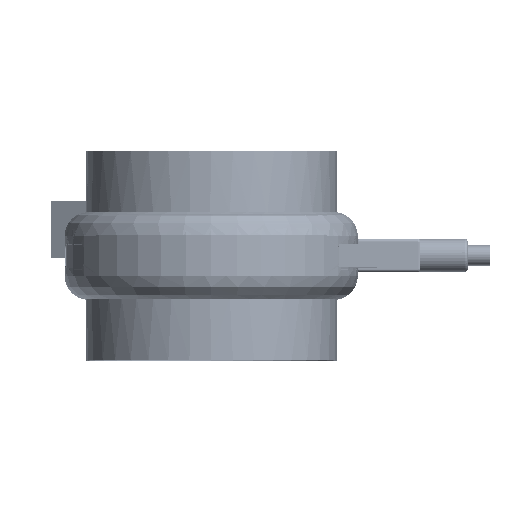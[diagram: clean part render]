
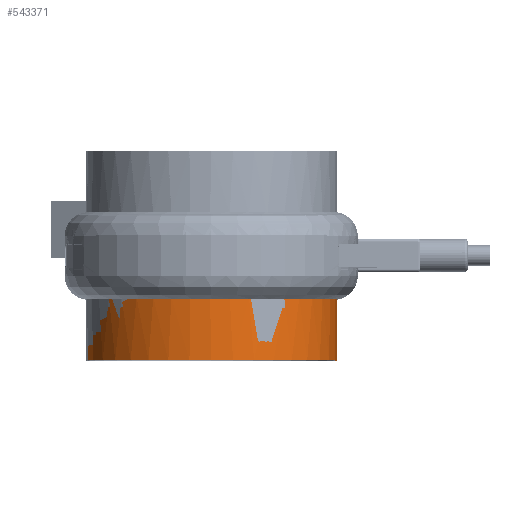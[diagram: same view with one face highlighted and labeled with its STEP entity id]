
A CAD part, top view. The second image highlights one B-rep face of the part: STEP entity #543371.
In plain terms, the highlighted cylindrical face has radius 26.5 mm (diameter 53 mm), a partial arc.
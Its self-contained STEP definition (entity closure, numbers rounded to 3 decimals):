
#543165=CARTESIAN_POINT('',(0.,12.3,-23.8));
#543166=DIRECTION('',(0.,0.,-1.));
#543167=DIRECTION('',(1.,0.,0.));
#543168=AXIS2_PLACEMENT_3D('',#543165,#543166,#543167);
#543170=DIRECTION('',(0.,0.,1.));
#543171=VECTOR('',#543170,13.348);
#543172=CARTESIAN_POINT('',(-26.5,12.3,-23.8));
#543173=LINE('',#543172,#543171);
#543174=CARTESIAN_POINT('',(26.5,12.3,
-10.452));
#543175=CARTESIAN_POINT('',(26.5,10.916,
-10.452));
#543176=CARTESIAN_POINT('',(26.283,8.139,
-10.441));
#543177=CARTESIAN_POINT('',(25.298,4.041,
-10.438));
#543178=CARTESIAN_POINT('',(23.675,0.155,
-10.434));
#543179=CARTESIAN_POINT('',(21.509,-3.363,
-10.435));
#543180=CARTESIAN_POINT('',(18.792,-6.541,
-10.438));
#543181=CARTESIAN_POINT('',(15.589,-9.264,
-10.442));
#543182=CARTESIAN_POINT('',(12.043,-11.426,
-10.446));
#543183=CARTESIAN_POINT('',(8.205,-13.012,
-10.449));
#543184=CARTESIAN_POINT('',(4.151,-13.983,
-10.451));
#543185=CARTESIAN_POINT('',(0.,-14.308,
-10.452));
#543186=CARTESIAN_POINT('',(-4.152,-13.983,
-10.451));
#543187=CARTESIAN_POINT('',(-8.205,-13.012,
-10.449));
#543188=CARTESIAN_POINT('',(-12.043,-11.426,
-10.446));
#543189=CARTESIAN_POINT('',(-15.59,-9.264,
-10.442));
#543190=CARTESIAN_POINT('',(-18.793,-6.54,
-10.438));
#543191=CARTESIAN_POINT('',(-21.508,-3.364,
-10.435));
#543192=CARTESIAN_POINT('',(-23.675,0.155,
-10.434));
#543193=CARTESIAN_POINT('',(-25.295,4.033,
-10.438));
#543194=CARTESIAN_POINT('',(-26.282,8.131,
-10.441));
#543195=CARTESIAN_POINT('',(-26.5,10.912,
-10.452));
#543196=CARTESIAN_POINT('',(-26.5,12.3,
-10.452));
#543271=DIRECTION('',(0.,0.,1.));
#543272=VECTOR('',#543271,13.348);
#543273=CARTESIAN_POINT('',(26.5,12.3,-23.8));
#543274=LINE('',#543273,#543272);
#543327=CARTESIAN_POINT('',(-26.5,12.3,-23.8));
#543328=CARTESIAN_POINT('',(26.5,12.3,-23.8));
#543329=VERTEX_POINT('',#543327);
#543330=VERTEX_POINT('',#543328);
#543353=CARTESIAN_POINT('',(26.5,12.3,
-10.452));
#543354=VERTEX_POINT('',#543353);
#543355=VERTEX_POINT('',#543196);
#543356=CARTESIAN_POINT('',(0.,12.3,-23.8));
#543357=DIRECTION('',(0.,0.,1.));
#543358=DIRECTION('',(1.,0.,0.));
#543359=AXIS2_PLACEMENT_3D('',#543356,#543357,#543358);
#543360=CYLINDRICAL_SURFACE('',#543359,26.5);
#543362=ORIENTED_EDGE('',*,*,#543361,.F.);
#543364=ORIENTED_EDGE('',*,*,#543363,.F.);
#543366=ORIENTED_EDGE('',*,*,#543365,.T.);
#543368=ORIENTED_EDGE('',*,*,#543367,.T.);
#543369=EDGE_LOOP('',(#543362,#543364,#543366,#543368));
#543370=FACE_OUTER_BOUND('',#543369,.F.);
#543371=ADVANCED_FACE('',(#543370),#543360,.T.);
#543169=CIRCLE('',#543168,26.5);
#543197=B_SPLINE_CURVE_WITH_KNOTS('',3,(#543174,#543175,#543176,#543177,#543178,
#543179,#543180,#543181,#543182,#543183,#543184,#543185,#543186,#543187,#543188,
#543189,#543190,#543191,#543192,#543193,#543194,#543195,#543196),.UNSPECIFIED.,
.F.,.F.,(4,1,1,1,1,1,1,1,1,1,1,1,1,1,1,1,1,1,1,1,4),(0.,0.05,0.1,0.15,
0.2,0.25,0.3,0.35,0.4,0.45,0.5,0.55,0.6,0.65,0.7,0.75,
0.8,0.85,0.9,0.95,1.),.UNSPECIFIED.);
#543361=EDGE_CURVE('',#543354,#543355,#543197,.T.);
#543363=EDGE_CURVE('',#543330,#543354,#543274,.T.);
#543365=EDGE_CURVE('',#543330,#543329,#543169,.T.);
#543367=EDGE_CURVE('',#543329,#543355,#543173,.T.);
